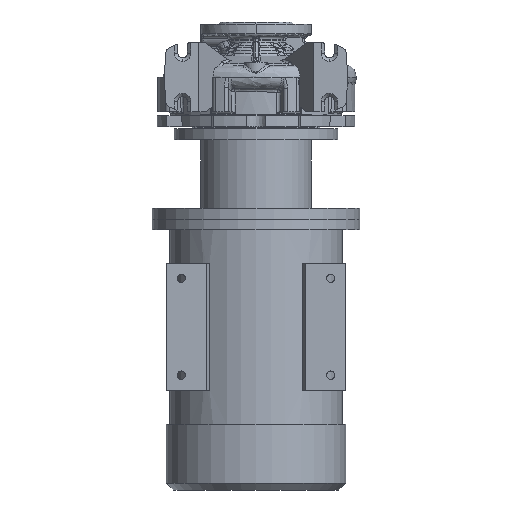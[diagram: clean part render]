
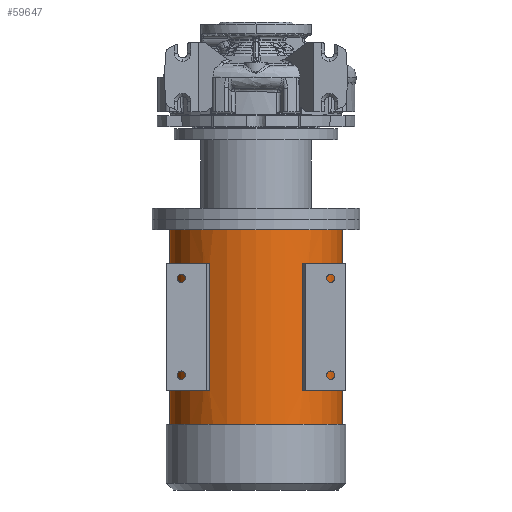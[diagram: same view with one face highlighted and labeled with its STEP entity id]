
A CAD part, front view. The second image highlights one B-rep face of the part: STEP entity #59647.
In plain terms, the highlighted cylindrical face has radius 124.5 mm (diameter 249 mm), a partial arc.
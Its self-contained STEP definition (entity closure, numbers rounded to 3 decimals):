
#743 = CARTESIAN_POINT ( 'NONE',  ( 124.5, 0., -501.3 ) ) ;
#850 = VERTEX_POINT ( 'NONE', #31349 ) ;
#1087 = LINE ( 'NONE', #9943, #41056 ) ;
#2060 = CARTESIAN_POINT ( 'NONE',  ( 124.5, 0., -220.3 ) ) ;
#3782 = EDGE_LOOP ( 'NONE', ( #24869, #65647, #50340, #34738 ) ) ;
#3820 = VECTOR ( 'NONE', #54800, 1000. ) ;
#3832 = CARTESIAN_POINT ( 'NONE',  ( -124.5, 0., -220.3 ) ) ;
#4152 = ORIENTED_EDGE ( 'NONE', *, *, #67383, .F. ) ;
#4401 = VECTOR ( 'NONE', #26131, 1000. ) ;
#5542 = CIRCLE ( 'NONE', #7297, 124.5 ) ;
#6156 = DIRECTION ( 'NONE',  ( 0., 0., -1. ) ) ;
#7297 = AXIS2_PLACEMENT_3D ( 'NONE', #31415, #47524, #10037 ) ;
#7463 = ORIENTED_EDGE ( 'NONE', *, *, #11434, .F. ) ;
#8852 = ORIENTED_EDGE ( 'NONE', *, *, #55602, .T. ) ;
#9071 = AXIS2_PLACEMENT_3D ( 'NONE', #39901, #13103, #23734 ) ;
#9216 = CARTESIAN_POINT ( 'NONE',  ( -66.829, -105.044, -452.3 ) ) ;
#9943 = CARTESIAN_POINT ( 'NONE',  ( 66.829, -105.044, -596.3 ) ) ;
#9959 = ORIENTED_EDGE ( 'NONE', *, *, #44855, .F. ) ;
#9990 = EDGE_CURVE ( 'NONE', #19945, #59853, #65195, .T. ) ;
#10037 = DIRECTION ( 'NONE',  ( 1., 0., 0. ) ) ;
#10281 = CIRCLE ( 'NONE', #47566, 124.5 ) ;
#11434 = EDGE_CURVE ( 'NONE', #59853, #52508, #10281, .T. ) ;
#13103 = DIRECTION ( 'NONE',  ( 0., 0., -1. ) ) ;
#13743 = DIRECTION ( 'NONE',  ( 0., 0., -1. ) ) ;
#14362 = CIRCLE ( 'NONE', #68120, 124.5 ) ;
#14716 = VERTEX_POINT ( 'NONE', #66711 ) ;
#14823 = DIRECTION ( 'NONE',  ( -1., 0., 0. ) ) ;
#15057 = DIRECTION ( 'NONE',  ( 0., 0., 1. ) ) ;
#15854 = CIRCLE ( 'NONE', #54241, 124.5 ) ;
#15917 = EDGE_CURVE ( 'NONE', #66290, #27254, #67543, .T. ) ;
#16130 = CARTESIAN_POINT ( 'NONE',  ( 75.873, -98.709, -452.3 ) ) ;
#16614 = DIRECTION ( 'NONE',  ( 0., 0., -1. ) ) ;
#17121 = DIRECTION ( 'NONE',  ( 0., 0., -1. ) ) ;
#17360 = EDGE_CURVE ( 'NONE', #24201, #14716, #14362, .T. ) ;
#19763 = DIRECTION ( 'NONE',  ( 1., 0., 0. ) ) ;
#19945 = VERTEX_POINT ( 'NONE', #2060 ) ;
#20010 = CARTESIAN_POINT ( 'NONE',  ( 0., 0., -268.3 ) ) ;
#20438 = CARTESIAN_POINT ( 'NONE',  ( 0., 0., -268.3 ) ) ;
#20626 = ORIENTED_EDGE ( 'NONE', *, *, #15917, .F. ) ;
#20686 = CARTESIAN_POINT ( 'NONE',  ( -66.829, -105.044, -596.3 ) ) ;
#20758 = VERTEX_POINT ( 'NONE', #3832 ) ;
#21932 = VECTOR ( 'NONE', #6156, 1000. ) ;
#21979 = EDGE_CURVE ( 'NONE', #20758, #52508, #30069, .T. ) ;
#22310 = DIRECTION ( 'NONE',  ( -1., 0., 0. ) ) ;
#23734 = DIRECTION ( 'NONE',  ( -1., 0., 0. ) ) ;
#23931 = LINE ( 'NONE', #20686, #4401 ) ;
#24201 = VERTEX_POINT ( 'NONE', #30378 ) ;
#24294 = EDGE_CURVE ( 'NONE', #52616, #24201, #1087, .T. ) ;
#24869 = ORIENTED_EDGE ( 'NONE', *, *, #63439, .F. ) ;
#25212 = DIRECTION ( 'NONE',  ( 0., 0., 1. ) ) ;
#25338 = CARTESIAN_POINT ( 'NONE',  ( -66.829, -105.044, -268.3 ) ) ;
#25916 = FACE_BOUND ( 'NONE', #3782, .T. ) ;
#26131 = DIRECTION ( 'NONE',  ( 0., 0., 1. ) ) ;
#26760 = LINE ( 'NONE', #54350, #3820 ) ;
#27129 = LINE ( 'NONE', #41508, #47494 ) ;
#27254 = VERTEX_POINT ( 'NONE', #68761 ) ;
#27606 = FACE_OUTER_BOUND ( 'NONE', #33136, .T. ) ;
#28126 = CARTESIAN_POINT ( 'NONE',  ( 0., 0., -220.3 ) ) ;
#28443 = AXIS2_PLACEMENT_3D ( 'NONE', #20438, #52244, #19763 ) ;
#30069 = LINE ( 'NONE', #32732, #37666 ) ;
#30378 = CARTESIAN_POINT ( 'NONE',  ( 66.829, -105.044, -268.3 ) ) ;
#31349 = CARTESIAN_POINT ( 'NONE',  ( -75.873, -98.709, -452.3 ) ) ;
#31415 = CARTESIAN_POINT ( 'NONE',  ( 0., 0., -452.3 ) ) ;
#32118 = EDGE_LOOP ( 'NONE', ( #4152, #62101, #9959, #20626 ) ) ;
#32732 = CARTESIAN_POINT ( 'NONE',  ( -124.5, 0., -596.3 ) ) ;
#33136 = EDGE_LOOP ( 'NONE', ( #41266, #8852, #63925, #7463 ) ) ;
#33594 = DIRECTION ( 'NONE',  ( -1., 0., 0. ) ) ;
#34270 = CARTESIAN_POINT ( 'NONE',  ( 66.829, -105.044, -452.3 ) ) ;
#34738 = ORIENTED_EDGE ( 'NONE', *, *, #57820, .T. ) ;
#36181 = CARTESIAN_POINT ( 'NONE',  ( 0., 0., -452.3 ) ) ;
#37666 = VECTOR ( 'NONE', #16614, 1000. ) ;
#39901 = CARTESIAN_POINT ( 'NONE',  ( 0., 0., -596.3 ) ) ;
#41056 = VECTOR ( 'NONE', #42447, 1000. ) ;
#41266 = ORIENTED_EDGE ( 'NONE', *, *, #9990, .F. ) ;
#41508 = CARTESIAN_POINT ( 'NONE',  ( 75.873, -98.709, -596.3 ) ) ;
#41545 = CIRCLE ( 'NONE', #58809, 124.5 ) ;
#41904 = VERTEX_POINT ( 'NONE', #16130 ) ;
#42447 = DIRECTION ( 'NONE',  ( 0., 0., 1. ) ) ;
#43706 = CARTESIAN_POINT ( 'NONE',  ( 0., 0., -501.3 ) ) ;
#44552 = EDGE_CURVE ( 'NONE', #70071, #850, #5542, .T. ) ;
#44855 = EDGE_CURVE ( 'NONE', #27254, #850, #26760, .T. ) ;
#47106 = CYLINDRICAL_SURFACE ( 'NONE', #9071, 124.5 ) ;
#47494 = VECTOR ( 'NONE', #13743, 1000. ) ;
#47500 = DIRECTION ( 'NONE',  ( -1., 0., 0. ) ) ;
#47524 = DIRECTION ( 'NONE',  ( 0., 0., -1. ) ) ;
#47566 = AXIS2_PLACEMENT_3D ( 'NONE', #43706, #17121, #22310 ) ;
#49667 = FACE_BOUND ( 'NONE', #32118, .T. ) ;
#50340 = ORIENTED_EDGE ( 'NONE', *, *, #17360, .T. ) ;
#52244 = DIRECTION ( 'NONE',  ( 0., 0., -1. ) ) ;
#52508 = VERTEX_POINT ( 'NONE', #59865 ) ;
#52616 = VERTEX_POINT ( 'NONE', #34270 ) ;
#54241 = AXIS2_PLACEMENT_3D ( 'NONE', #28126, #66029, #33594 ) ;
#54350 = CARTESIAN_POINT ( 'NONE',  ( -75.873, -98.709, -596.3 ) ) ;
#54800 = DIRECTION ( 'NONE',  ( 0., 0., -1. ) ) ;
#55602 = EDGE_CURVE ( 'NONE', #19945, #20758, #15854, .T. ) ;
#57820 = EDGE_CURVE ( 'NONE', #14716, #41904, #27129, .T. ) ;
#58809 = AXIS2_PLACEMENT_3D ( 'NONE', #36181, #15057, #14823 ) ;
#59647 = ADVANCED_FACE ( 'NONE', ( #27606, #25916, #49667 ), #47106, .T. ) ;
#59853 = VERTEX_POINT ( 'NONE', #743 ) ;
#59865 = CARTESIAN_POINT ( 'NONE',  ( -124.5, 0., -501.3 ) ) ;
#62101 = ORIENTED_EDGE ( 'NONE', *, *, #44552, .T. ) ;
#63439 = EDGE_CURVE ( 'NONE', #52616, #41904, #41545, .T. ) ;
#63925 = ORIENTED_EDGE ( 'NONE', *, *, #21979, .T. ) ;
#65195 = LINE ( 'NONE', #68809, #21932 ) ;
#65647 = ORIENTED_EDGE ( 'NONE', *, *, #24294, .T. ) ;
#66029 = DIRECTION ( 'NONE',  ( 0., 0., -1. ) ) ;
#66290 = VERTEX_POINT ( 'NONE', #25338 ) ;
#66711 = CARTESIAN_POINT ( 'NONE',  ( 75.873, -98.709, -268.3 ) ) ;
#67383 = EDGE_CURVE ( 'NONE', #70071, #66290, #23931, .T. ) ;
#67543 = CIRCLE ( 'NONE', #28443, 124.5 ) ;
#68120 = AXIS2_PLACEMENT_3D ( 'NONE', #20010, #25212, #47500 ) ;
#68761 = CARTESIAN_POINT ( 'NONE',  ( -75.873, -98.709, -268.3 ) ) ;
#68809 = CARTESIAN_POINT ( 'NONE',  ( 124.5, 0., -596.3 ) ) ;
#70071 = VERTEX_POINT ( 'NONE', #9216 ) ;
